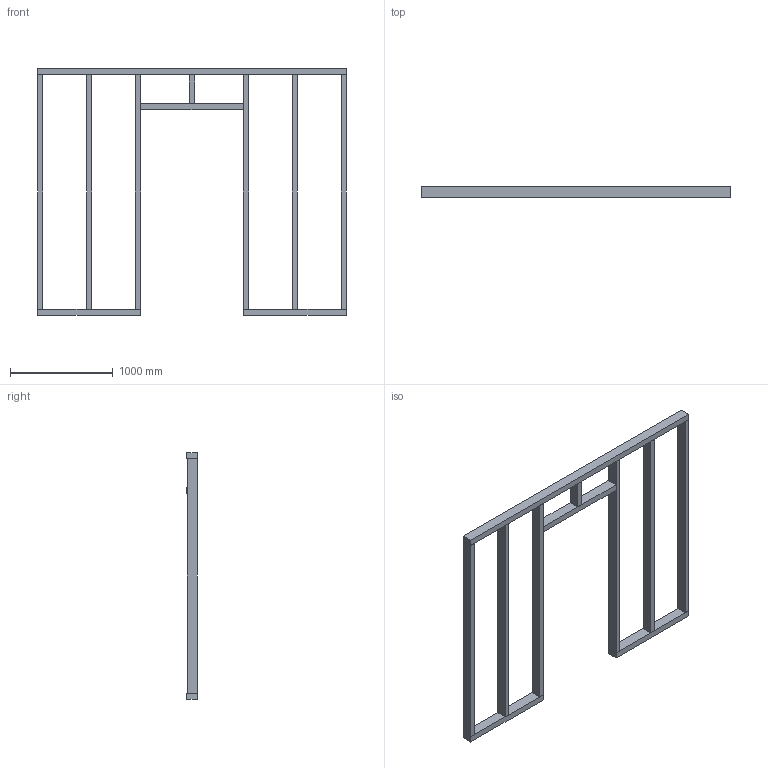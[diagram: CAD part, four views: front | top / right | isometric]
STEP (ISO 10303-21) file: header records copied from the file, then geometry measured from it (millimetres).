
FILE_DESCRIPTION(('Avelis Wall Flow profile-envelope coordination geometry'),'2;1');
FILE_NAME('IFC-DOOR-REFERENCE_CAND-03_profile_envelopes.step','2026-11-03T16:13:06',('Avelis Wall Flow'),('Imagine & Make 2026 - Bloc 1'),'Avelis Wall Flow 2.2','Avelis Wall Flow','ENGINEERING_REVIEW_REQUIRED');
FILE_SCHEMA(('CONFIG_CONTROL_DESIGN'));
Length unit declared in the file: millimetre
Products named in the file (1): CAND-03
Bounding box: 3000 x 104 x 2400 mm (x, y, z)
Volume: 108348000 mm3; surface area: 6293184 mm2
Topology: 11 solids, 11 shells, 66 faces, 132 edges, 88 vertices
Faces by surface type: plane 66
Entity records: 1470 total; most frequent: DIRECTION 266, ORIENTED_EDGE 264, VECTOR 132, LINE 132, EDGE_CURVE 132, CARTESIAN_POINT 89, VERTEX_POINT 88, AXIS2_PLACEMENT_3D 67
